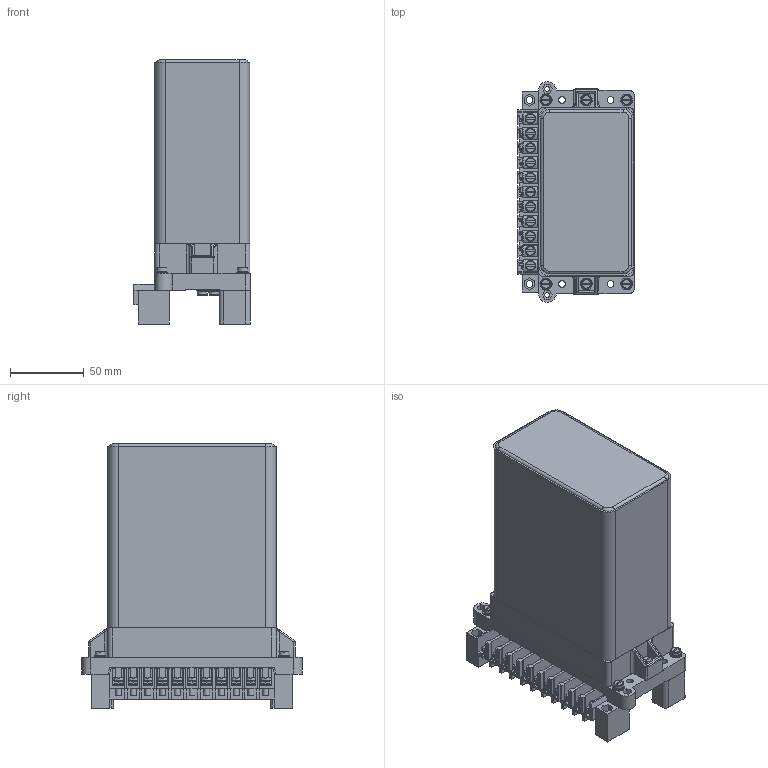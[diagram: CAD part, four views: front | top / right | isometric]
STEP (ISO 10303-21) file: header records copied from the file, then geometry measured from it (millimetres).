
FILE_DESCRIPTION(('STEP AP214'), '1');
FILE_NAME('让孕.647537.001-84 - 绣脲', '', ('UNSPECIFIED'), ('UNSPECIFIED'), 'ASCON STEP Converter 1.3', 'ASCON Math Kernel', '');
FILE_SCHEMA(('AUTOMOTIVE_DESIGN { 1 0 10303 214 3 1 1}'));
Length unit declared in the file: millimetre
Products named in the file (1): 让孕.647537.001-84
Bounding box: 79 x 150 x 179.5 mm (x, y, z)
Volume: 1175470.2 mm3; surface area: 137344.7 mm2
Topology: 19 solids, 19 shells, 7705 faces, 18958 edges, 11353 vertices
Faces by surface type: plane 6055, cylinder 889, extrusion 595, torus 119, cone 35, bspline 12
Full cylindrical faces by diameter (mm): 1 x18, 3.2 x11, 3.5 x2, 4 x29, 4.3 x6, 4.5 x31, 5 x2, 5.2 x11, 5.9 x4, 7.5 x2, 8 x8, 8.8 x3
Entity records: 287703 total; most frequent: CARTESIAN_POINT 48544, ORIENTED_EDGE 37394, DIRECTION 33972, EDGE_CURVE 18697, VECTOR 15572, LINE 14977, VERTEX_POINT 11342, AXIS2_PLACEMENT_3D 9200
